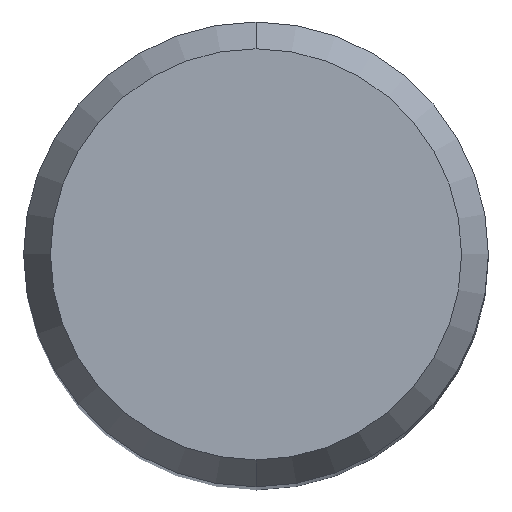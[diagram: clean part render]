
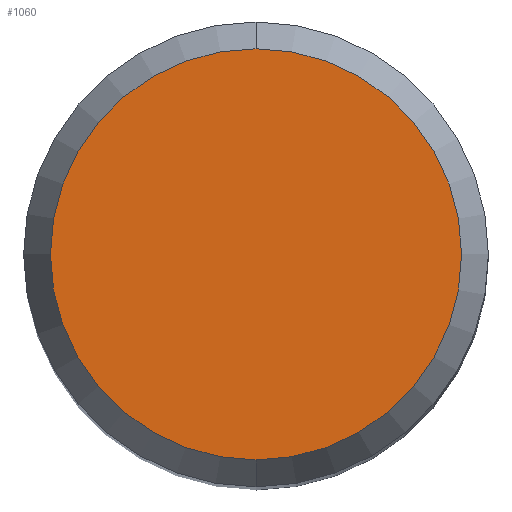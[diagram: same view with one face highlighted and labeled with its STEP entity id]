
A CAD part, top view. The second image highlights one B-rep face of the part: STEP entity #1060.
In plain terms, the highlighted planar face has unit normal (0, 0, 1).
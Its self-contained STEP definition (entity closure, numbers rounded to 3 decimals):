
#1060=ADVANCED_FACE('',(#2592),#2593,.T.);
#1448=VERTEX_POINT('',#3027);
#1974=VERTEX_POINT('',#3601);
#2102=EDGE_CURVE('',#1448,#1974,#3742,.T.);
#2256=EDGE_CURVE('',#1974,#1448,#3904,.T.);
#2592=FACE_OUTER_BOUND('',#6934,.T.);
#2593=PLANE('',#6935);
#3027=CARTESIAN_POINT('',(0.,-4.423,0.0));
#3601=CARTESIAN_POINT('',(0.0,4.423,0.0));
#3742=CIRCLE('',#21968,4.423);
#3904=CIRCLE('',#23469,4.423);
#6934=EDGE_LOOP('',(#23760,#23761));
#6935=AXIS2_PLACEMENT_3D('',#23762,#23763,#23764);
#21968=AXIS2_PLACEMENT_3D('',#24992,#24993,#24994);
#23469=AXIS2_PLACEMENT_3D('',#25087,#25088,#25089);
#23760=ORIENTED_EDGE('',*,*,#2256,.F.);
#23761=ORIENTED_EDGE('',*,*,#2102,.F.);
#23762=CARTESIAN_POINT('',(0.0,2.211,0.0));
#23763=DIRECTION('',(-0.0,0.0,1.0));
#23764=DIRECTION('',(0.0,-1.0,0.0));
#24992=CARTESIAN_POINT('',(0.0,0.0,0.0));
#24993=DIRECTION('',(0.0,0.0,-1.0));
#24994=DIRECTION('',(0.0,1.0,0.0));
#25087=CARTESIAN_POINT('',(0.0,0.0,0.0));
#25088=DIRECTION('',(0.0,0.0,-1.0));
#25089=DIRECTION('',(0.0,1.0,0.0));
